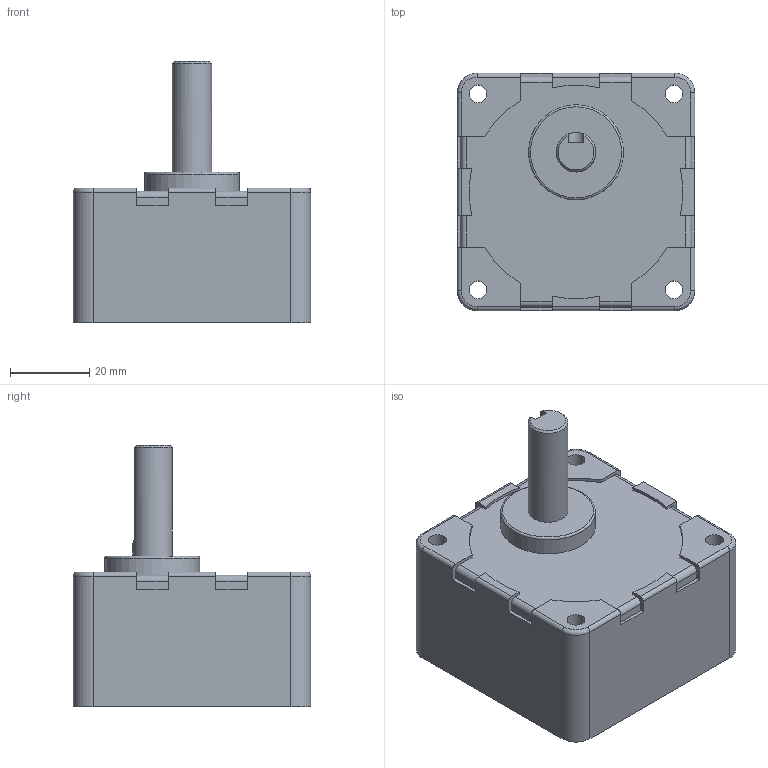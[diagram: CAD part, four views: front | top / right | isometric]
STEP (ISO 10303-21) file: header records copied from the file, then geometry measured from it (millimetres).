
FILE_DESCRIPTION(/* description */ (''),/* implementation_level */ '2;1');
FILE_NAME(/* name */ 'E:\도면작업\2016\0704) 미주향 SG 도면\3D GEAR HEAD\SG6KA5~25.stp',/* time_stamp */ '2016-07-22T14:00:55+09:00',/* author */ ('jy-jung'),/* organization */ (''),/* preprocessor_version */ 'ST-DEVELOPER v15.6',/* originating_system */ 'Autodesk Inventor 2015',/* authorisation */ '');
FILE_SCHEMA (('AUTOMOTIVE_DESIGN { 1 0 10303 214 3 1 1 }'));
Length unit declared in the file: millimetre
Products named in the file (1): SG6KA5~25
Bounding box: 60 x 60 x 66 mm (x, y, z)
Volume: 115588.8 mm3; surface area: 18766.9 mm2
Topology: 1 solids, 1 shells, 101 faces, 276 edges, 181 vertices
Faces by surface type: plane 53, cylinder 40, torus 5, cone 3
Full cylindrical faces by diameter (mm): 4.5 x4, 5.7 x1, 10 x1, 24 x1, 54 x1
Entity records: 3184 total; most frequent: CARTESIAN_POINT 566, DIRECTION 550, ORIENTED_EDGE 526, EDGE_CURVE 263, AXIS2_PLACEMENT_3D 189, VERTEX_POINT 179, LINE 172, VECTOR 172
